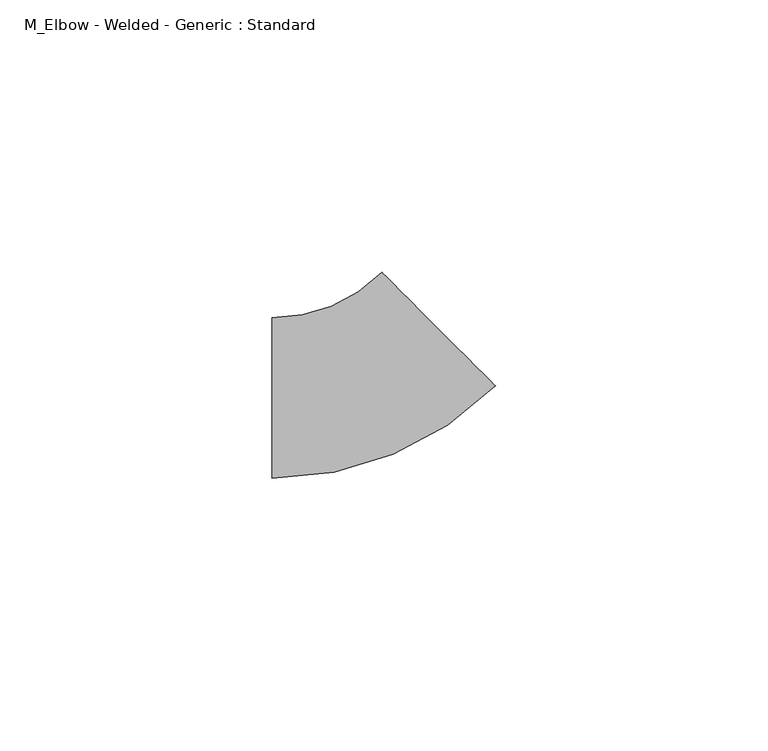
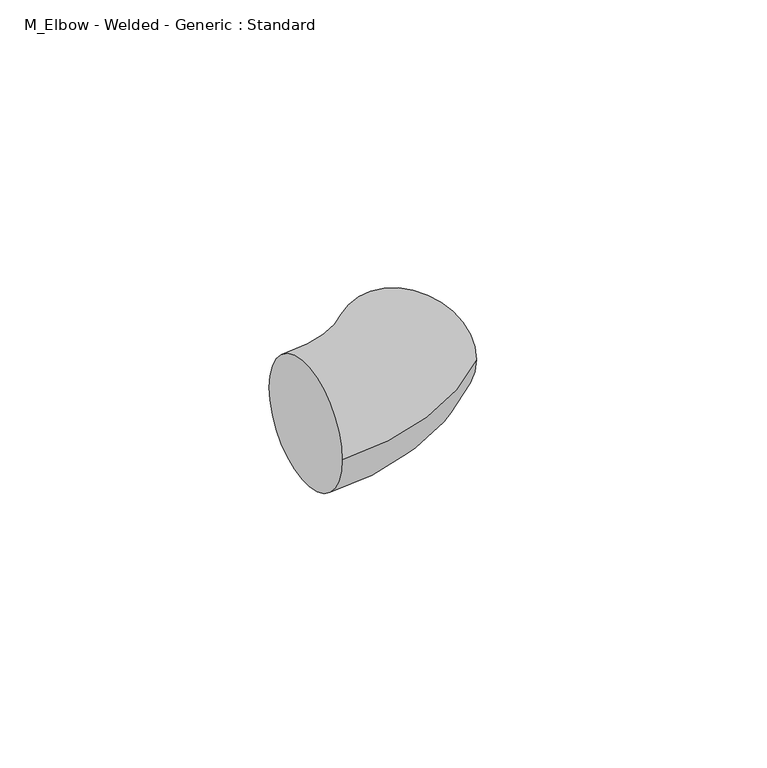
"""IFC4 building model written with IfcOpenShell, lengths in millimetres: pipe fitting geometry, M_Elbow - Welded - Generic : Standard."""

from ifc_helpers import new_model, si_unit, point, frame, origin, place, context, project, spatial, circle_curve, ellipse_curve, trimmed, source, transform, mapped, element, save
from ifc_brep_helpers import plane_surface, revolved_surface, advanced_brep


def m_elbow_welded_generic_standard_7a51b9d3(model_context):
    return source(origin(), model_context, "Body", "AdvancedBrep", [
        advanced_brep(
        [(-17.8917187, -14.7089844, 0.0), (-17.8917187, 14.7089844, 0.0), (23.0521642, 2.2506773, 0.0), (2.2503888, 23.0521923, 0.0)],
        [
            (0, 1, circle_curve(frame((-17.8917187, 0.0, 0.0), z_axis=(-1.0, 0.0, 0.0), x_axis=(0.0, 1.0, 0.0)), 14.7089844)),
            (1, 0, circle_curve(frame((-17.8917187, 0.0, 0.0), z_axis=(-1.0, 0.0, 0.0), x_axis=(0.0, 1.0, 0.0)), 14.7089844)),
            (2, 3, circle_curve(frame((12.6512765, 12.6514348, 0.0), z_axis=(0.7071023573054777, 0.7071112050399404, 0.0), x_axis=(-0.7071112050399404, 0.7071023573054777, 0.0)), 14.7089844)),
            (3, 2, circle_curve(frame((12.6512765, 12.6514348, 0.0), z_axis=(0.7071023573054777, 0.7071112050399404, 0.0), x_axis=(-0.7071112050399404, 0.7071023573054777, 0.0)), 14.7089844)),
            (3, 1, circle_curve(frame((-17.8917187, 43.1940479, 0.0), z_axis=(0.0, 0.0, -1.0), x_axis=(0.0, -1.0, 0.0)), 28.4850635)),
            (0, 2, circle_curve(frame((-17.8917187, 43.1940479, 0.0), z_axis=(0.0, 0.0, 1.0), x_axis=(0.0, -1.0, 0.0)), 57.9030323)),
        ],
        [
            plane_surface(frame((-17.8917187, 0.0, 0.0), z_axis=(-1.0, 0.0, 0.0), x_axis=(0.0, 0.0, 1.0))),
            plane_surface(frame((12.6512765, 12.6514348, 0.0), z_axis=(0.7071023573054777, 0.7071112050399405, 0.0), x_axis=(0.0, 0.0, 1.0))),
            revolved_surface(trimmed(ellipse_curve(frame((-17.8917187, 0.0, 0.0), z_axis=(-1.0, 0.0, 0.0), x_axis=(0.0, 1.0, 0.0)), 14.7089844, 14.7089844), [point((-17.8917187, -14.7089844, 0.0))], [point((-17.8917187, 14.7089844, 0.0))], True, "CARTESIAN"), (-17.8917187, 43.1940479, 0.0), (0.0, 0.0, 1.0)),
            revolved_surface(trimmed(ellipse_curve(frame((-17.8917187, 0.0, 0.0), z_axis=(-1.0, 0.0, 0.0), x_axis=(0.0, 1.0, 0.0)), 14.7089844, 14.7089844), [point((-17.8917187, 14.7089844, 0.0))], [point((-17.8917187, -14.7089844, 0.0))], True, "CARTESIAN"), (-17.8917187, 43.1940479, 0.0), (0.0, 0.0, 1.0)),
        ],
        [
            (0, [[1, 2]]),
            (1, [[3, 4]]),
            (2, [[5, -1, 6, -4]]),
            (3, [[-6, -2, -5, -3]]),
        ],
    ),
    ])


if __name__ == "__main__":
    model = new_model("IFC4")
    model_context = context("Model", 3, world=origin())
    ifc_project = project(units=[si_unit("LENGTHUNIT", "METRE", prefix="MILLI")], contexts=[model_context])
    site = spatial("IfcSite", under=ifc_project)
    building = spatial("IfcBuilding", under=site)
    placement = place(None, origin())
    m_elbow_welded_generic_standard_shape = m_elbow_welded_generic_standard_7a51b9d3(model_context)
    element("IfcPipeFitting", 1, ObjectType="M_Elbow - Welded - Generic : Standard", at=placement, inside=building, context=model_context, shape_type="MappedRepresentation", body=[
        mapped(m_elbow_welded_generic_standard_shape, transform((0.0, 0.0, 0.0), x_axis=(1.0, 0.0, 0.0), y_axis=(0.0, 1.0, 0.0), z_axis=(0.0, 0.0, 1.0))),
    ])
    save(model, "model.ifc")
